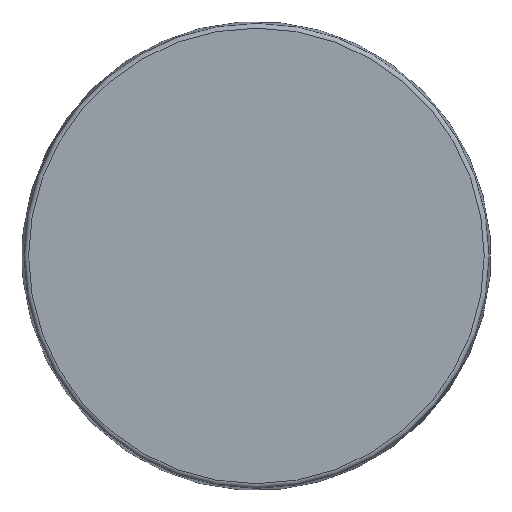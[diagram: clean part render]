
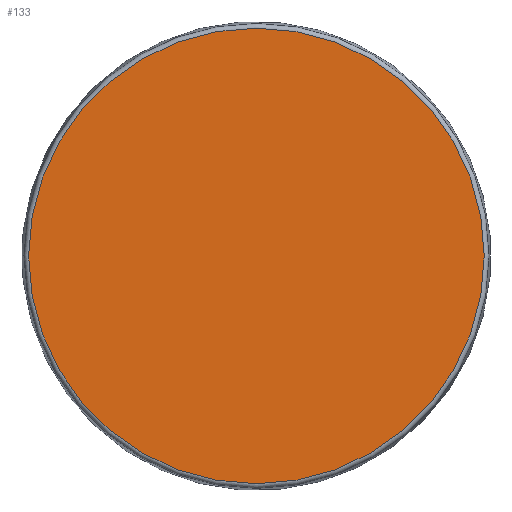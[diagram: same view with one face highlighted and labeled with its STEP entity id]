
A CAD part, top view. The second image highlights one B-rep face of the part: STEP entity #133.
In plain terms, the highlighted planar face has unit normal (0, 0, 1).
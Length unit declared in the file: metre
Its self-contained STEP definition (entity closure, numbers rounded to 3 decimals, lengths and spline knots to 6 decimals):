
#133=ADVANCED_FACE('',(#264),#265,.T.);
#264=FACE_OUTER_BOUND('',#392,.T.);
#265=PLANE('',#393);
#392=EDGE_LOOP('',(#752));
#393=AXIS2_PLACEMENT_3D('',#753,#754,#755);
#752=ORIENTED_EDGE('',*,*,#911,.T.);
#753=CARTESIAN_POINT('',(0.,-0.008,0.02175));
#754=DIRECTION('',(0.0,0.0,1.0));
#755=DIRECTION('',(-1.0,0.,0.0));
#911=EDGE_CURVE('',#1120,#1120,#1121,.T.);
#1120=VERTEX_POINT('',#1489);
#1121=CIRCLE('',#1490,0.017004);
#1489=CARTESIAN_POINT('',(-0.017004,0.,0.02175));
#1490=AXIS2_PLACEMENT_3D('',#1661,#1662,#1663);
#1661=CARTESIAN_POINT('',(0.0,0.0,0.02175));
#1662=DIRECTION('',(0.0,0.0,1.0));
#1663=DIRECTION('',(-1.0,0.,0.0));
